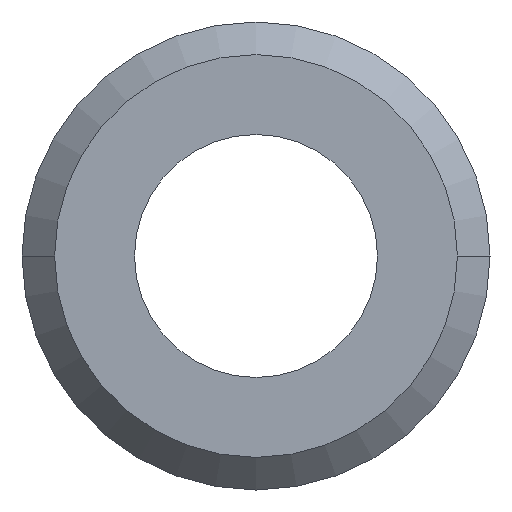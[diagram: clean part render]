
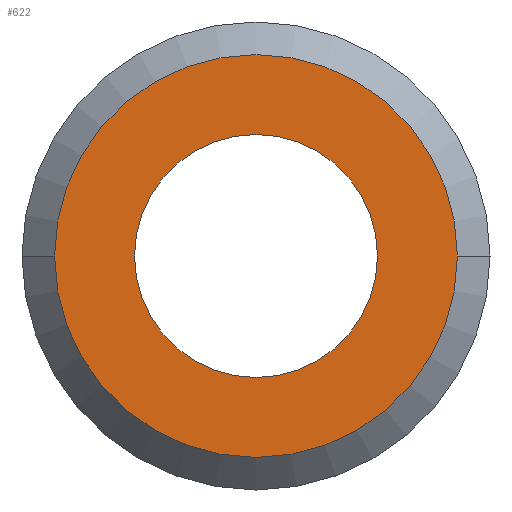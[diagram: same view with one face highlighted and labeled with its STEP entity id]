
A CAD part, left-side view. The second image highlights one B-rep face of the part: STEP entity #622.
In plain terms, the highlighted planar face has unit normal (-1, 0, 0).
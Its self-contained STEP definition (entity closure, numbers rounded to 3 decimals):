
#162=CARTESIAN_POINT('',(-17.3,0.,0.));
#163=DIRECTION('',(-1.,0.,0.));
#164=DIRECTION('',(0.,1.,0.));
#165=AXIS2_PLACEMENT_3D('',#162,#163,#164);
#167=CARTESIAN_POINT('',(-17.3,0.,0.));
#168=DIRECTION('',(-1.,0.,0.));
#169=DIRECTION('',(0.,-1.,0.));
#170=AXIS2_PLACEMENT_3D('',#167,#168,#169);
#172=CARTESIAN_POINT('',(-17.3,0.,0.));
#173=DIRECTION('',(-1.,0.,0.));
#174=DIRECTION('',(0.,1.,0.));
#175=AXIS2_PLACEMENT_3D('',#172,#173,#174);
#177=CARTESIAN_POINT('',(-17.3,0.,0.));
#178=DIRECTION('',(-1.,0.,0.));
#179=DIRECTION('',(0.,-1.,0.));
#180=AXIS2_PLACEMENT_3D('',#177,#178,#179);
#301=CARTESIAN_POINT('',(-17.3,6.8,0.));
#302=CARTESIAN_POINT('',(-17.3,-6.8,0.));
#303=VERTEX_POINT('',#301);
#304=VERTEX_POINT('',#302);
#333=CARTESIAN_POINT('',(-17.3,4.1,0.));
#334=CARTESIAN_POINT('',(-17.3,-4.1,0.));
#335=VERTEX_POINT('',#333);
#336=VERTEX_POINT('',#334);
#606=CARTESIAN_POINT('',(-17.3,0.,0.));
#607=DIRECTION('',(-1.,0.,0.));
#608=DIRECTION('',(0.,1.,0.));
#609=AXIS2_PLACEMENT_3D('',#606,#607,#608);
#610=PLANE('',#609);
#612=ORIENTED_EDGE('',*,*,#611,.F.);
#614=ORIENTED_EDGE('',*,*,#613,.F.);
#615=EDGE_LOOP('',(#612,#614));
#616=FACE_OUTER_BOUND('',#615,.F.);
#617=ORIENTED_EDGE('',*,*,#596,.T.);
#619=ORIENTED_EDGE('',*,*,#618,.T.);
#620=EDGE_LOOP('',(#617,#619));
#621=FACE_BOUND('',#620,.F.);
#622=ADVANCED_FACE('',(#616,#621),#610,.T.);
#166=CIRCLE('',#165,6.8);
#171=CIRCLE('',#170,6.8);
#176=CIRCLE('',#175,4.1);
#181=CIRCLE('',#180,4.1);
#596=EDGE_CURVE('',#335,#336,#176,.T.);
#611=EDGE_CURVE('',#303,#304,#166,.T.);
#613=EDGE_CURVE('',#304,#303,#171,.T.);
#618=EDGE_CURVE('',#336,#335,#181,.T.);
